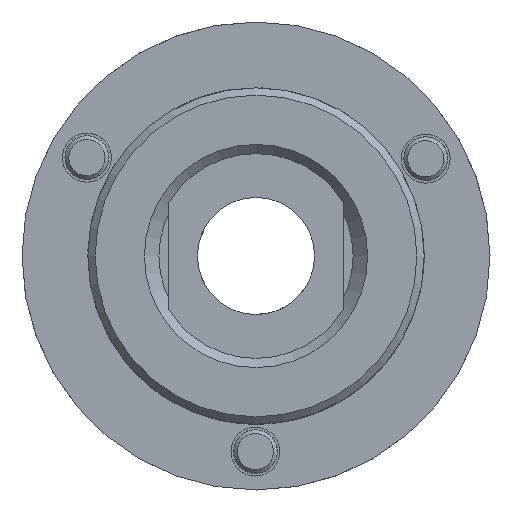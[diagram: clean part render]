
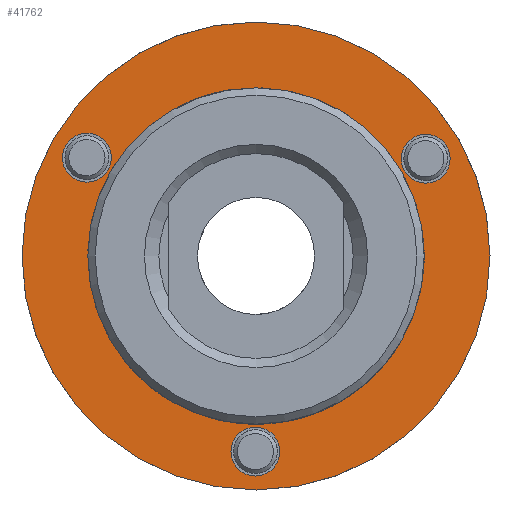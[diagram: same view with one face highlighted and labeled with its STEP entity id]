
A CAD part, front view. The second image highlights one B-rep face of the part: STEP entity #41762.
In plain terms, the highlighted planar face has unit normal (0, -1, 0).
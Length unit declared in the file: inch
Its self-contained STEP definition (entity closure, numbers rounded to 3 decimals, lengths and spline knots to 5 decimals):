
#41627=CARTESIAN_POINT('',(-0.2343,0.63136,-0.83599));
#41628=VERTEX_POINT('',#41627);
#41629=CARTESIAN_POINT('',(-0.3388,0.63136,-0.83599));
#41630=DIRECTION('',(0.0,1.0,0.0));
#41631=DIRECTION('',(-1.0,0.0,0.0));
#41632=AXIS2_PLACEMENT_3D('',#41629,#41630,#41631);
#41633=CIRCLE('',#41632,0.1045);
#41634=EDGE_CURVE('',#41628,#41628,#41633,.T.);
#41655=CARTESIAN_POINT('',(-0.95118,0.63136,0.4221));
#41656=VERTEX_POINT('',#41655);
#41657=CARTESIAN_POINT('',(-1.05568,0.63136,0.4221));
#41658=DIRECTION('',(0.0,1.0,0.0));
#41659=DIRECTION('',(-1.0,0.0,0.0));
#41660=AXIS2_PLACEMENT_3D('',#41657,#41658,#41659);
#41661=CIRCLE('',#41660,0.1045);
#41662=EDGE_CURVE('',#41656,#41656,#41661,.T.);
#41683=CARTESIAN_POINT('',(0.49679,0.63136,0.41389));
#41684=VERTEX_POINT('',#41683);
#41685=CARTESIAN_POINT('',(0.39229,0.63136,0.41389));
#41686=DIRECTION('',(0.0,1.0,0.0));
#41687=DIRECTION('',(-1.0,0.0,0.0));
#41688=AXIS2_PLACEMENT_3D('',#41685,#41686,#41687);
#41689=CIRCLE('',#41688,0.1045);
#41690=EDGE_CURVE('',#41684,#41684,#41689,.T.);
#41711=CARTESIAN_POINT('',(0.66593,0.63136,0.0));
#41712=VERTEX_POINT('',#41711);
#41713=CARTESIAN_POINT('',(-0.33407,0.63136,0.0));
#41714=DIRECTION('',(0.0,-1.0,0.0));
#41715=DIRECTION('',(1.0,0.0,0.0));
#41716=AXIS2_PLACEMENT_3D('',#41713,#41714,#41715);
#41717=CIRCLE('',#41716,1.0);
#41718=EDGE_CURVE('',#41712,#41712,#41717,.T.);
#41734=CARTESIAN_POINT('',(0.40018,0.63136,0.0));
#41735=DIRECTION('',(0.0,-1.0,0.0));
#41736=DIRECTION('',(0.0,0.0,-1.0));
#41737=AXIS2_PLACEMENT_3D('',#41734,#41735,#41736);
#41738=PLANE('',#41737);
#41739=ORIENTED_EDGE('',*,*,#41718,.T.);
#41740=EDGE_LOOP('',(#41739));
#41741=FACE_OUTER_BOUND('',#41740,.T.);
#41742=ORIENTED_EDGE('',*,*,#41634,.T.);
#41743=EDGE_LOOP('',(#41742));
#41744=FACE_BOUND('',#41743,.T.);
#41745=ORIENTED_EDGE('',*,*,#41662,.T.);
#41746=EDGE_LOOP('',(#41745));
#41747=FACE_BOUND('',#41746,.T.);
#41748=ORIENTED_EDGE('',*,*,#41690,.T.);
#41749=EDGE_LOOP('',(#41748));
#41750=FACE_BOUND('',#41749,.T.);
#41751=CARTESIAN_POINT('',(0.13443,0.63136,0.0));
#41752=VERTEX_POINT('',#41751);
#41753=CARTESIAN_POINT('',(-0.33407,0.63136,0.0));
#41754=DIRECTION('',(0.0,-1.0,0.0));
#41755=DIRECTION('',(1.0,0.0,0.0));
#41756=AXIS2_PLACEMENT_3D('',#41753,#41754,#41755);
#41757=CIRCLE('',#41756,0.4685);
#41758=EDGE_CURVE('',#41752,#41752,#41757,.T.);
#41759=ORIENTED_EDGE('',*,*,#41758,.F.);
#41760=EDGE_LOOP('',(#41759));
#41761=FACE_BOUND('',#41760,.T.);
#41762=ADVANCED_FACE('',(#41741,#41744,#41747,#41750,#41761),#41738,.T.);
